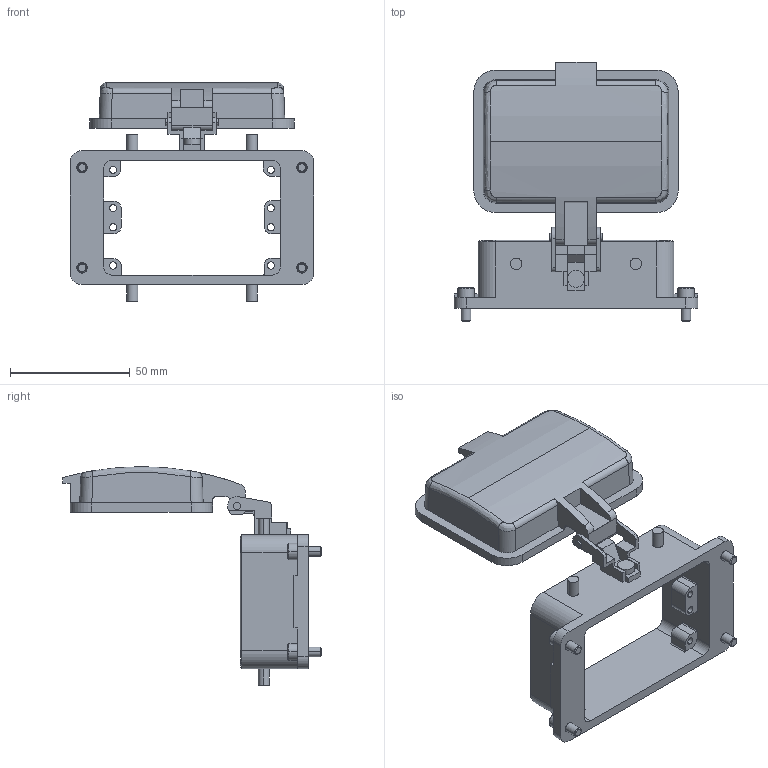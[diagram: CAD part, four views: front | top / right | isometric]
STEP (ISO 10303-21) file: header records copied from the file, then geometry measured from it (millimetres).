
FILE_DESCRIPTION (( 'STEP AP214' ), '1' );
FILE_NAME ('E2714_32A.STEP', '2012-06-20T06:02:58', ( 'blub' ), ( '' ), 'SwSTEP 2.0', 'SolidWorks 2012', '' );
FILE_SCHEMA (( 'AUTOMOTIVE_DESIGN' ));
Length unit declared in the file: millimetre
Products named in the file (3): E1200_4x10; E2714_32A
Assembly tree (5 placements, depth 2):
  E2714_32A
    E2714_32A
    E1200_4x10  x4
Bounding box: 102 x 108.3 x 91.5 mm (x, y, z)
Volume: 57043.9 mm3; surface area: 43771 mm2
Topology: 5 solids, 6 shells, 350 faces, 905 edges, 586 vertices
Faces by surface type: plane 173, cylinder 137, bspline 24, cone 16
Entity records: 14071 total; most frequent: CARTESIAN_POINT 3181, ORIENTED_EDGE 1582, DIRECTION 1561, EDGE_CURVE 791, AXIS2_PLACEMENT_3D 536, VERTEX_POINT 514, VECTOR 489, LINE 489
